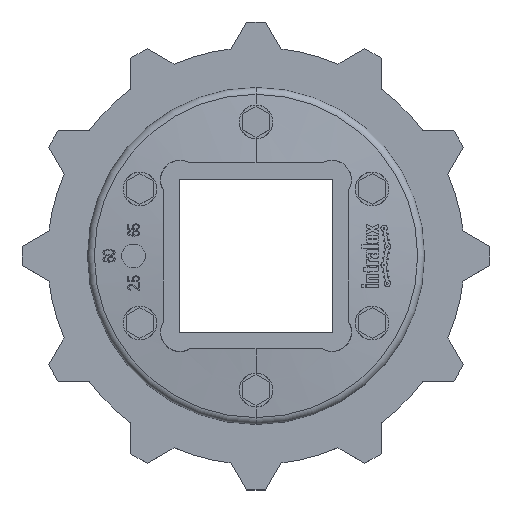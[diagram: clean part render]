
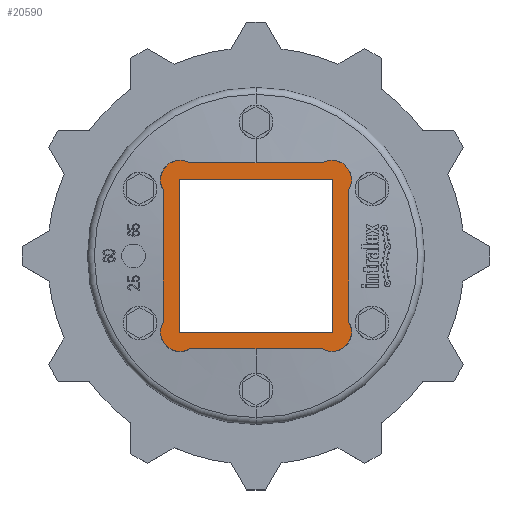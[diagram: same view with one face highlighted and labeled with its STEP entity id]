
A CAD part, top view. The second image highlights one B-rep face of the part: STEP entity #20590.
In plain terms, the highlighted planar face has unit normal (0, 0, 1) as drawn and (0, 1, 0) by its records, which use the part's own axes.
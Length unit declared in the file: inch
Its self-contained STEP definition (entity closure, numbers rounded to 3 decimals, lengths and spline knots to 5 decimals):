
#9922=DIRECTION('',(0.,0.,1.));
#9923=VECTOR('',#9922,2.16129);
#9924=CARTESIAN_POINT('',(-1.5175,0.67,-1.08065));
#9925=LINE('',#9924,#9923);
#9926=CARTESIAN_POINT('',(-1.24,0.67,-1.24));
#9927=DIRECTION('',(0.,1.,0.));
#9928=DIRECTION('',(0.498,0.,-0.867));
#9929=AXIS2_PLACEMENT_3D('',#9926,#9927,#9928);
#9931=DIRECTION('',(-1.,0.,0.));
#9932=VECTOR('',#9931,2.16129);
#9933=CARTESIAN_POINT('',(1.08065,0.67,-1.5175));
#9934=LINE('',#9933,#9932);
#9935=CARTESIAN_POINT('',(1.24,0.67,-1.24));
#9936=DIRECTION('',(0.,1.,0.));
#9937=DIRECTION('',(0.867,0.,0.498));
#9938=AXIS2_PLACEMENT_3D('',#9935,#9936,#9937);
#9940=DIRECTION('',(0.,0.,-1.));
#9941=VECTOR('',#9940,2.16129);
#9942=CARTESIAN_POINT('',(1.5175,0.67,1.08065));
#9943=LINE('',#9942,#9941);
#9944=CARTESIAN_POINT('',(1.24,0.67,1.24));
#9945=DIRECTION('',(0.,1.,0.));
#9946=DIRECTION('',(-0.498,0.,0.867));
#9947=AXIS2_PLACEMENT_3D('',#9944,#9945,#9946);
#9949=DIRECTION('',(1.,0.,0.));
#9950=VECTOR('',#9949,2.16129);
#9951=CARTESIAN_POINT('',(-1.08065,0.67,1.5175));
#9952=LINE('',#9951,#9950);
#9953=CARTESIAN_POINT('',(-1.24,0.67,1.24));
#9954=DIRECTION('',(0.,1.,0.));
#9955=DIRECTION('',(-0.867,0.,-0.498));
#9956=AXIS2_PLACEMENT_3D('',#9953,#9954,#9955);
#9958=DIRECTION('',(-1.,0.,0.));
#9959=VECTOR('',#9958,2.5);
#9960=CARTESIAN_POINT('',(1.25,0.67,-1.25));
#9961=LINE('',#9960,#9959);
#9962=DIRECTION('',(0.,0.,1.));
#9963=VECTOR('',#9962,2.5);
#9964=CARTESIAN_POINT('',(-1.25,0.67,-1.25));
#9965=LINE('',#9964,#9963);
#9966=DIRECTION('',(1.,0.,0.));
#9967=VECTOR('',#9966,2.5);
#9968=CARTESIAN_POINT('',(-1.25,0.67,1.25));
#9969=LINE('',#9968,#9967);
#9970=DIRECTION('',(0.,0.,-1.));
#9971=VECTOR('',#9970,2.5);
#9972=CARTESIAN_POINT('',(1.25,0.67,1.25));
#9973=LINE('',#9972,#9971);
#11692=CARTESIAN_POINT('',(-1.5175,0.67,-1.08065));
#11693=CARTESIAN_POINT('',(-1.5175,0.67,1.08065));
#11694=VERTEX_POINT('',#11692);
#11695=VERTEX_POINT('',#11693);
#11696=CARTESIAN_POINT('',(-1.08065,0.67,1.5175));
#11697=VERTEX_POINT('',#11696);
#11698=CARTESIAN_POINT('',(1.08065,0.67,1.5175));
#11699=VERTEX_POINT('',#11698);
#11700=CARTESIAN_POINT('',(1.5175,0.67,1.08065));
#11701=VERTEX_POINT('',#11700);
#11702=CARTESIAN_POINT('',(1.5175,0.67,-1.08065));
#11703=VERTEX_POINT('',#11702);
#11704=CARTESIAN_POINT('',(1.08065,0.67,-1.5175));
#11705=VERTEX_POINT('',#11704);
#11706=CARTESIAN_POINT('',(-1.08065,0.67,-1.5175));
#11707=VERTEX_POINT('',#11706);
#12782=CARTESIAN_POINT('',(1.25,0.67,-1.25));
#12783=CARTESIAN_POINT('',(-1.25,0.67,-1.25));
#12784=VERTEX_POINT('',#12782);
#12785=VERTEX_POINT('',#12783);
#12786=CARTESIAN_POINT('',(-1.25,0.67,1.25));
#12787=VERTEX_POINT('',#12786);
#12788=CARTESIAN_POINT('',(1.25,0.67,1.25));
#12789=VERTEX_POINT('',#12788);
#20565=CARTESIAN_POINT('',(0.,0.67,0.));
#20566=DIRECTION('',(0.,1.,0.));
#20567=DIRECTION('',(-1.,0.,0.));
#20568=AXIS2_PLACEMENT_3D('',#20565,#20566,#20567);
#20569=PLANE('',#20568);
#20570=ORIENTED_EDGE('',*,*,#20459,.F.);
#20571=ORIENTED_EDGE('',*,*,#20475,.F.);
#20572=ORIENTED_EDGE('',*,*,#20489,.F.);
#20573=ORIENTED_EDGE('',*,*,#20503,.F.);
#20574=ORIENTED_EDGE('',*,*,#20518,.F.);
#20575=ORIENTED_EDGE('',*,*,#20532,.F.);
#20576=ORIENTED_EDGE('',*,*,#20546,.F.);
#20577=ORIENTED_EDGE('',*,*,#20559,.F.);
#20578=EDGE_LOOP('',(#20570,#20571,#20572,#20573,#20574,#20575,#20576,#20577));
#20579=FACE_OUTER_BOUND('',#20578,.F.);
#20581=ORIENTED_EDGE('',*,*,#20580,.T.);
#20583=ORIENTED_EDGE('',*,*,#20582,.T.);
#20585=ORIENTED_EDGE('',*,*,#20584,.T.);
#20587=ORIENTED_EDGE('',*,*,#20586,.T.);
#20588=EDGE_LOOP('',(#20581,#20583,#20585,#20587));
#20589=FACE_BOUND('',#20588,.F.);
#20590=ADVANCED_FACE('',(#20579,#20589),#20569,.T.);
#9930=CIRCLE('',#9929,0.32);
#9939=CIRCLE('',#9938,0.32);
#9948=CIRCLE('',#9947,0.32);
#9957=CIRCLE('',#9956,0.32);
#20459=EDGE_CURVE('',#11694,#11695,#9925,.T.);
#20475=EDGE_CURVE('',#11707,#11694,#9930,.T.);
#20489=EDGE_CURVE('',#11705,#11707,#9934,.T.);
#20503=EDGE_CURVE('',#11703,#11705,#9939,.T.);
#20518=EDGE_CURVE('',#11701,#11703,#9943,.T.);
#20532=EDGE_CURVE('',#11699,#11701,#9948,.T.);
#20546=EDGE_CURVE('',#11697,#11699,#9952,.T.);
#20559=EDGE_CURVE('',#11695,#11697,#9957,.T.);
#20580=EDGE_CURVE('',#12784,#12785,#9961,.T.);
#20582=EDGE_CURVE('',#12785,#12787,#9965,.T.);
#20584=EDGE_CURVE('',#12787,#12789,#9969,.T.);
#20586=EDGE_CURVE('',#12789,#12784,#9973,.T.);
